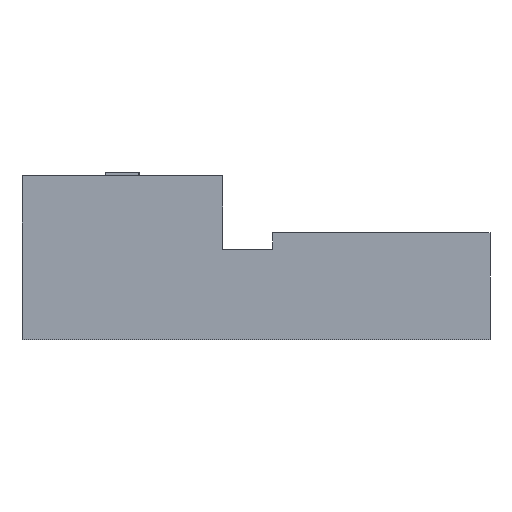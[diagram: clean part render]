
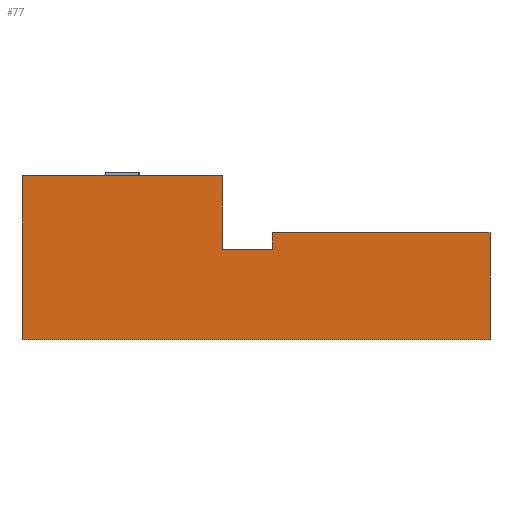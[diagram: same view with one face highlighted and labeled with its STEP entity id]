
A CAD part, left-side view. The second image highlights one B-rep face of the part: STEP entity #77.
In plain terms, the highlighted planar face has unit normal (-1, 0, 0).
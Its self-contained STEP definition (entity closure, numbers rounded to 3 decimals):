
#77=ADVANCED_FACE('',(#281),#283,.T.);
#281=FACE_BOUND('',#282,.T.);
#282=EDGE_LOOP('',(#627,#628,#629,#630,#631,#632,#633,#634,#635,#636));
#283=PLANE('',#284);
#284=AXIS2_PLACEMENT_3D('',#285,#286,#287);
#285=CARTESIAN_POINT('',(-4.5,7.,0.));
#286=DIRECTION('',(-1.,0.,0.));
#287=DIRECTION('',(0.,-1.,0.));
#627=ORIENTED_EDGE('',*,*,#878,.F.);
#628=ORIENTED_EDGE('',*,*,#863,.F.);
#629=ORIENTED_EDGE('',*,*,#879,.F.);
#630=ORIENTED_EDGE('',*,*,#880,.T.);
#631=ORIENTED_EDGE('',*,*,#881,.T.);
#632=ORIENTED_EDGE('',*,*,#882,.F.);
#633=ORIENTED_EDGE('',*,*,#883,.T.);
#634=ORIENTED_EDGE('',*,*,#884,.T.);
#635=ORIENTED_EDGE('',*,*,#885,.T.);
#636=ORIENTED_EDGE('',*,*,#867,.F.);
#863=EDGE_CURVE('',#1027,#1029,#1030,.T.);
#867=EDGE_CURVE('',#1035,#1037,#1038,.T.);
#878=EDGE_CURVE('',#1029,#1035,#1056,.F.);
#879=EDGE_CURVE('',#1057,#1027,#1058,.T.);
#880=EDGE_CURVE('',#1057,#1059,#1060,.T.);
#881=EDGE_CURVE('',#1059,#1061,#1062,.T.);
#882=EDGE_CURVE('',#1063,#1061,#1064,.T.);
#883=EDGE_CURVE('',#1063,#1065,#1066,.F.);
#884=EDGE_CURVE('',#1065,#1067,#1068,.F.);
#885=EDGE_CURVE('',#1067,#1037,#1069,.T.);
#1027=VERTEX_POINT('',#1182);
#1029=VERTEX_POINT('',#1186);
#1030=LINE('',#1187,#1188);
#1035=VERTEX_POINT('',#1198);
#1037=VERTEX_POINT('',#1202);
#1038=LINE('',#1203,#1204);
#1056=LINE('',#1243,#1244);
#1057=VERTEX_POINT('',#1246);
#1058=LINE('',#1247,#1248);
#1059=VERTEX_POINT('',#1250);
#1060=LINE('',#1251,#1252);
#1061=VERTEX_POINT('',#1254);
#1062=LINE('',#1255,#1256);
#1063=VERTEX_POINT('',#1258);
#1064=LINE('',#1259,#1260);
#1065=VERTEX_POINT('',#1262);
#1066=LINE('',#1263,#1264);
#1067=VERTEX_POINT('',#1266);
#1068=LINE('',#1267,#1268);
#1069=LINE('',#1270,#1271);
#1182=CARTESIAN_POINT('',(-4.5,7.,4.9));
#1186=CARTESIAN_POINT('',(-4.5,4.5,4.9));
#1187=CARTESIAN_POINT('',(-4.5,7.,4.9));
#1188=VECTOR('',#1189,1.);
#1189=DIRECTION('',(0.,-1.,0.));
#1198=CARTESIAN_POINT('',(-4.5,3.5,4.9));
#1202=CARTESIAN_POINT('',(-4.5,1.,4.9));
#1203=CARTESIAN_POINT('',(-4.5,3.5,4.9));
#1204=VECTOR('',#1205,1.);
#1205=DIRECTION('',(0.,-1.,0.));
#1243=CARTESIAN_POINT('',(-4.5,3.5,4.9));
#1244=VECTOR('',#1245,1.);
#1245=DIRECTION('',(0.,1.,0.));
#1246=CARTESIAN_POINT('',(-4.5,7.,0.));
#1247=CARTESIAN_POINT('',(-4.5,7.,0.));
#1248=VECTOR('',#1249,1.);
#1249=DIRECTION('',(0.,0.,1.));
#1250=CARTESIAN_POINT('',(-4.5,-7.,0.));
#1251=CARTESIAN_POINT('',(-4.5,7.,0.));
#1252=VECTOR('',#1253,1.);
#1253=DIRECTION('',(0.,-1.,0.));
#1254=CARTESIAN_POINT('',(-4.5,-7.,3.2));
#1255=CARTESIAN_POINT('',(-4.5,-7.,0.));
#1256=VECTOR('',#1257,1.);
#1257=DIRECTION('',(0.,0.,1.));
#1258=CARTESIAN_POINT('',(-4.5,-0.5,3.2));
#1259=CARTESIAN_POINT('',(-4.5,-0.5,3.2));
#1260=VECTOR('',#1261,1.);
#1261=DIRECTION('',(0.,-1.,0.));
#1262=CARTESIAN_POINT('',(-4.5,-0.5,2.7));
#1263=CARTESIAN_POINT('',(-4.5,-0.5,2.7));
#1264=VECTOR('',#1265,1.);
#1265=DIRECTION('',(0.,0.,1.));
#1266=CARTESIAN_POINT('',(-4.5,1.,2.7));
#1267=CARTESIAN_POINT('',(-4.5,1.,2.7));
#1268=VECTOR('',#1269,1.);
#1269=DIRECTION('',(0.,-1.,0.));
#1270=CARTESIAN_POINT('',(-4.5,1.,2.7));
#1271=VECTOR('',#1272,1.);
#1272=DIRECTION('',(0.,0.,1.));
